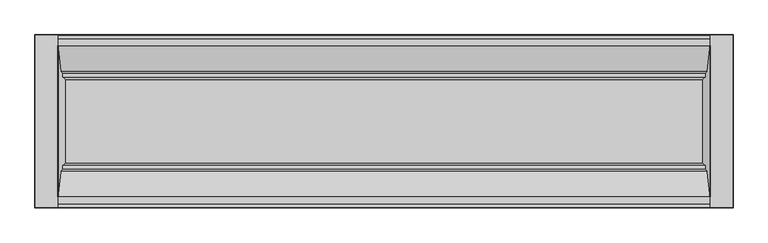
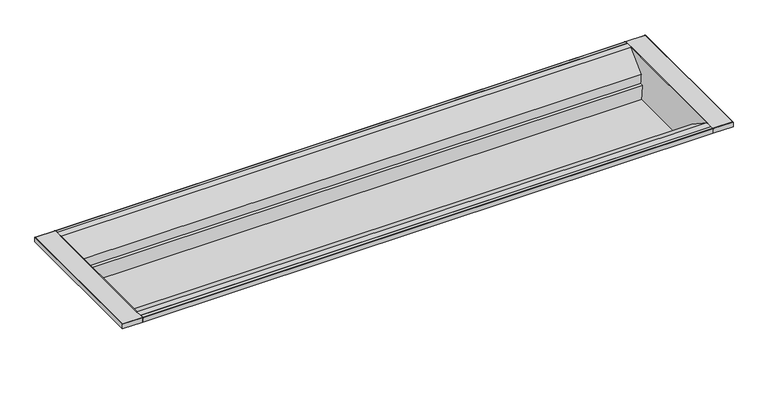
"""IFC4 building model written with IfcOpenShell, lengths in millimetres: light fixture geometry."""

from ifc_helpers import new_model, si_unit, frame, origin, place, context, project, spatial, circle_curve, ellipse_curve, faceted_brep, source, transform, mapped, element, save
from ifc_brep_helpers import plane_surface, cylinder_surface, advanced_brep


def light_fixture_11667dc2(model_context):
    return source(origin(), model_context, "Body", "SolidModel", [
        advanced_brep(
        [(566.0976563, 147.7086724, -0.79375), (566.0976563, 153.2649224, -0.79375), (566.0976563, 153.2649224, -10.0), (566.0976563, 154.0586724, -10.0), (566.0976563, 154.0586724, -0.8929688), (566.0976563, 153.1657036, 0.0), (566.0976563, 147.7086724, 0.0), (-566.0976562, 147.7086724, -0.79375), (-566.0976562, 147.7086724, 0.0), (-566.0976562, 153.1657036, 0.0), (-566.0976562, 154.0586724, -0.8929688), (-566.0976562, 154.0586724, -10.0), (-566.0976562, 153.2649224, -10.0), (-566.0976562, 153.2649224, -0.79375), (-546.0976562, 153.2649224, -10.0), (-546.0976562, 153.2649224, -9.20625), (546.0976563, 153.2649224, -9.20625), (546.0976563, 153.2649224, -10.0), (546.0976563, 147.2336724, -10.0), (542.9226563, 144.0586724, -10.0), (-542.9226562, 144.0586724, -10.0), (-546.0976562, 147.2336724, -10.0), (-546.0976562, 147.2336724, -9.20625), (-542.9226562, 144.0586724, -9.20625), (542.9226563, 144.0586724, -9.20625), (546.0976563, 147.2336724, -9.20625)],
        [
            (0, 1),
            (1, 2),
            (2, 3),
            (3, 4),
            (4, 5, circle_curve(frame((566.0976563, 153.1657036, -0.8929688), z_axis=(1.0, 0.0, 0.0), x_axis=(0.0, 1.0, 0.0)), 0.8929688)),
            (5, 6),
            (6, 0),
            (7, 8),
            (8, 9),
            (9, 10, circle_curve(frame((-566.0976562, 153.1657036, -0.8929688), z_axis=(-1.0, 0.0, 0.0), x_axis=(0.0, 1.0, 0.0)), 0.8929688)),
            (10, 11),
            (11, 12),
            (12, 13),
            (13, 7),
            (0, 7),
            (13, 1),
            (12, 14),
            (14, 15),
            (15, 16),
            (16, 17),
            (17, 2),
            (17, 18),
            (18, 19, circle_curve(frame((542.9226563, 147.2336724, -10.0), z_axis=(0.0, 0.0, -1.0), x_axis=(1.0, 0.0, 0.0)), 3.175)),
            (19, 20),
            (20, 21, circle_curve(frame((-542.9226562, 147.2336724, -10.0), z_axis=(0.0, 0.0, -1.0), x_axis=(1.0, 0.0, 0.0)), 3.175)),
            (21, 14),
            (11, 3),
            (10, 4),
            (9, 5),
            (8, 6),
            (22, 23, circle_curve(frame((-542.9226562, 147.2336724, -9.20625), z_axis=(0.0, 0.0, 1.0), x_axis=(1.0, 0.0, 0.0)), 3.175)),
            (23, 24),
            (24, 25, circle_curve(frame((542.9226563, 147.2336724, -9.20625), z_axis=(0.0, 0.0, 1.0), x_axis=(1.0, 0.0, 0.0)), 3.175)),
            (25, 16),
            (15, 22),
            (19, 24),
            (23, 20),
            (25, 18),
            (21, 22),
        ],
        [
            plane_surface(frame((566.0976563, 153.2649224, -0.79375), z_axis=(1.0, 0.0, 0.0), x_axis=(0.0, 1.0, 0.0))),
            plane_surface(frame((-566.0976562, 153.2649224, -0.79375), z_axis=(-1.0, 0.0, 0.0), x_axis=(0.0, -1.0, 0.0))),
            plane_surface(frame((566.0976563, 147.7086724, -0.79375), z_axis=(0.0, 0.0, -1.0), x_axis=(-1.0, 0.0, 0.0))),
            plane_surface(frame((566.0976563, 153.2649224, -0.79375), z_axis=(0.0, -1.0, 0.0), x_axis=(-1.0, 0.0, 0.0))),
            plane_surface(frame((566.0976563, 153.2649224, -10.0), z_axis=(0.0, 0.0, -1.0), x_axis=(-1.0, 0.0, 0.0))),
            plane_surface(frame((566.0976563, 154.0586724, -10.0), z_axis=(0.0, 1.0, 0.0), x_axis=(-1.0, 0.0, 0.0))),
            cylinder_surface(frame((-566.0976562, 153.1657036, -0.8929688), z_axis=(1.0, 0.0, 0.0), x_axis=(0.0, 1.0, 0.0)), 0.8929688),
            plane_surface(frame((566.0976563, 153.1657036, 0.0), z_axis=(0.0, 0.0, 1.0), x_axis=(-1.0, 0.0, 0.0))),
            plane_surface(frame((566.0976563, 147.7086724, 0.0), z_axis=(0.0, -1.0, 0.0), x_axis=(-1.0, 0.0, 0.0))),
            plane_surface(frame((-539.7476562, 147.2336724, -9.20625), z_axis=(0.0, 0.0, 1.0), x_axis=(0.0, 1.0, 0.0))),
            plane_surface(frame((-542.9226562, 144.0586724, -9.20625), z_axis=(0.0, -1.0, 0.0), x_axis=(0.0, 0.0, -1.0))),
            plane_surface(frame((546.0976563, 147.2336724, -9.20625), z_axis=(1.0, 0.0, 0.0), x_axis=(0.0, 0.0, -1.0))),
            plane_surface(frame((-546.0976562, 154.0586724, -9.20625), z_axis=(-1.0, 0.0, 0.0), x_axis=(0.0, 0.0, -1.0))),
            cylinder_surface(frame((-542.9226562, 147.2336724, -10.0), z_axis=(0.0, 0.0, 1.0), x_axis=(1.0, 0.0, 0.0)), 3.175),
            cylinder_surface(frame((542.9226563, 147.2336724, -10.0), z_axis=(0.0, 0.0, 1.0), x_axis=(1.0, 0.0, 0.0)), 3.175),
        ],
        [
            (0, [[1, 2, 3, 4, 5, 6, 7]]),
            (1, [[8, 9, 10, 11, 12, 13, 14]]),
            (2, [[-1, 15, -14, 16]]),
            (3, [[-2, -16, -13, 17, 18, 19, 20, 21]]),
            (4, [[-3, -21, 22, 23, 24, 25, 26, -17, -12, 27]]),
            (5, [[-4, -27, -11, 28]]),
            (6, [[-5, -28, -10, 29]]),
            (7, [[-6, -29, -9, 30]]),
            (8, [[-7, -30, -8, -15]]),
            (9, [[31, 32, 33, 34, -19, 35]]),
            (10, [[-24, 36, -32, 37]]),
            (11, [[38, -22, -20, -34]]),
            (12, [[39, -35, -18, -26]]),
            (13, [[-25, -37, -31, -39]]),
            (14, [[-23, -38, -33, -36]]),
        ],
    ),
        advanced_brep(
        [(566.0976563, -140.6210151, -0.79375), (566.0976563, -140.6210151, 0.0), (566.0976563, -146.0780464, 0.0), (566.0976563, -146.9710151, -0.8929688), (566.0976563, -146.9710151, -10.0), (566.0976563, -146.1772651, -10.0), (566.0976563, -146.1772651, -0.79375), (-566.0976562, -140.6210151, -0.79375), (-566.0976562, -146.1772651, -0.79375), (-566.0976562, -146.1772651, -10.0), (-566.0976562, -146.9710151, -10.0), (-566.0976562, -146.9710151, -0.8929688), (-566.0976562, -146.0780464, 0.0), (-566.0976562, -140.6210151, 0.0), (-546.0976562, -140.1460151, -10.0), (-542.9226562, -136.9710151, -10.0), (542.9226563, -136.9710151, -10.0), (546.0976563, -140.1460151, -10.0), (546.0976563, -146.1772651, -10.0), (-546.0976562, -146.1772651, -10.0), (546.0976563, -146.1772651, -9.20625), (-546.0976562, -146.1772651, -9.20625), (546.0976563, -140.1460151, -9.20625), (542.9226563, -136.9710151, -9.20625), (-542.9226562, -136.9710151, -9.20625), (-546.0976562, -140.1460151, -9.20625)],
        [
            (0, 1),
            (1, 2),
            (2, 3, circle_curve(frame((566.0976563, -146.0780464, -0.8929688), z_axis=(1.0, 0.0, 0.0), x_axis=(0.0, 1.0, 0.0)), 0.8929688)),
            (3, 4),
            (4, 5),
            (5, 6),
            (6, 0),
            (7, 8),
            (8, 9),
            (9, 10),
            (10, 11),
            (11, 12, circle_curve(frame((-566.0976562, -146.0780464, -0.8929688), z_axis=(-1.0, 0.0, 0.0), x_axis=(0.0, 1.0, 0.0)), 0.8929688)),
            (12, 13),
            (13, 7),
            (14, 15, circle_curve(frame((-542.9226562, -140.1460151, -10.0), z_axis=(0.0, 0.0, -1.0), x_axis=(1.0, 0.0, 0.0)), 3.175)),
            (15, 16),
            (16, 17, circle_curve(frame((542.9226563, -140.1460151, -10.0), z_axis=(0.0, 0.0, -1.0), x_axis=(1.0, 0.0, 0.0)), 3.175)),
            (17, 18),
            (18, 5),
            (4, 10),
            (9, 19),
            (19, 14),
            (0, 7),
            (13, 1),
            (12, 2),
            (11, 3),
            (18, 20),
            (20, 21),
            (21, 19),
            (8, 6),
            (22, 23, circle_curve(frame((542.9226563, -140.1460151, -9.20625), z_axis=(0.0, 0.0, 1.0), x_axis=(1.0, 0.0, 0.0)), 3.175)),
            (23, 24),
            (24, 25, circle_curve(frame((-542.9226562, -140.1460151, -9.20625), z_axis=(0.0, 0.0, 1.0), x_axis=(1.0, 0.0, 0.0)), 3.175)),
            (25, 21),
            (20, 22),
            (25, 14),
            (17, 22),
            (16, 23),
            (15, 24),
        ],
        [
            plane_surface(frame((566.0976563, 153.2649224, -0.79375), z_axis=(1.0, 0.0, 0.0), x_axis=(0.0, 1.0, 0.0))),
            plane_surface(frame((-566.0976562, 153.2649224, -0.79375), z_axis=(-1.0, 0.0, 0.0), x_axis=(0.0, -1.0, 0.0))),
            plane_surface(frame((566.0976563, 153.2649224, -10.0), z_axis=(0.0, 0.0, -1.0), x_axis=(-1.0, 0.0, 0.0))),
            plane_surface(frame((566.0976563, -140.6210151, -0.79375), z_axis=(0.0, 1.0, 0.0), x_axis=(-1.0, 0.0, 0.0))),
            plane_surface(frame((566.0976563, -140.6210151, 0.0), z_axis=(0.0, -2.909454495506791e-12, 1.0), x_axis=(-1.0, 0.0, 0.0))),
            cylinder_surface(frame((0.0, -146.0780464, -0.8929688), z_axis=(1.0, 0.0, 0.0), x_axis=(0.0, 1.0, 0.0)), 0.8929688),
            plane_surface(frame((566.0976563, -146.9710151, -0.8929688), z_axis=(0.0, -1.0, 0.0), x_axis=(-1.0, 0.0, 0.0))),
            plane_surface(frame((566.0976563, -146.1772651, -10.0), z_axis=(0.0, 1.0, 0.0), x_axis=(-1.0, 0.0, 0.0))),
            plane_surface(frame((566.0976563, -146.1772651, -0.79375), z_axis=(0.0, 0.0, -1.0), x_axis=(-1.0, 0.0, 0.0))),
            plane_surface(frame((-539.7476562, 147.2336724, -9.20625), z_axis=(0.0, 0.0, 1.0), x_axis=(0.0, 1.0, 0.0))),
            plane_surface(frame((-546.0976562, -140.1460151, -9.20625), z_axis=(-1.0, 0.0, 0.0), x_axis=(0.0, 0.0, -1.0))),
            plane_surface(frame((546.0976563, -146.9710151, -9.20625), z_axis=(1.0, 0.0, 0.0), x_axis=(0.0, 0.0, -1.0))),
            cylinder_surface(frame((542.9226563, -140.1460151, 0.0), z_axis=(0.0, 0.0, 1.0), x_axis=(1.0, 0.0, 0.0)), 3.175),
            plane_surface(frame((542.9226563, -136.9710151, -9.20625), z_axis=(0.0, 1.0, 0.0), x_axis=(0.0, 0.0, -1.0))),
            cylinder_surface(frame((-542.9226562, -140.1460151, 0.0), z_axis=(0.0, 0.0, 1.0), x_axis=(1.0, 0.0, 0.0)), 3.175),
        ],
        [
            (0, [[1, 2, 3, 4, 5, 6, 7]]),
            (1, [[8, 9, 10, 11, 12, 13, 14]]),
            (2, [[15, 16, 17, 18, 19, -5, 20, -10, 21, 22]]),
            (3, [[-1, 23, -14, 24]]),
            (4, [[-2, -24, -13, 25]]),
            (5, [[-3, -25, -12, 26]]),
            (6, [[-20, -4, -26, -11]]),
            (7, [[-6, -19, 27, 28, 29, -21, -9, 30]]),
            (8, [[-7, -30, -8, -23]]),
            (9, [[31, 32, 33, 34, -28, 35]]),
            (10, [[36, -22, -29, -34]]),
            (11, [[37, -35, -27, -18]]),
            (12, [[-17, 38, -31, -37]]),
            (13, [[-16, 39, -32, -38]]),
            (14, [[-15, -36, -33, -39]]),
        ],
    ),
        advanced_brep(
        [(-566.0985566, -128.293225, 0.0), (-566.0985566, 135.3808822, 0.0), (-566.9045515, 135.3808822, 0.0), (-566.9045515, -128.293225, 0.0), (-561.843246, 90.4756735, -28.7040897), (-559.0062048, 87.6386322, -44.79375), (-559.0062048, 81.2943654, -44.79375), (-554.4570278, 76.7451884, -70.5934151), (-554.4570278, -69.6575312, -70.5934151), (-559.0062048, -74.2067082, -44.79375), (-559.0062048, -80.550975, -44.79375), (-561.843246, -83.3880163, -28.7040897), (-553.5693308, 76.6138484, -71.3382812), (-553.5693308, -69.5261912, -71.3382812), (-544.0014676, 76.6138484, -71.3382813), (-544.0014676, -69.5261912, -71.3382813), (-544.0014676, 76.7538079, -70.5445312), (-544.0014676, -69.6661507, -70.5445312), (-553.6596524, 76.7538079, -70.5445312), (-553.6596524, -69.6661507, -70.5445312), (-561.0372511, -83.3880163, -28.7040897), (-558.2002099, -80.550975, -44.79375), (-558.2002099, -74.2067082, -44.79375), (-558.2002099, 81.2943654, -44.79375), (-558.2002099, 87.6386322, -44.79375), (-561.0372511, 90.4756735, -28.7040897)],
        [
            (0, 1),
            (1, 2),
            (2, 3),
            (3, 0),
            (2, 4),
            (4, 5),
            (5, 6),
            (6, 7),
            (7, 8),
            (8, 9),
            (9, 10),
            (10, 11),
            (11, 3),
            (7, 12, ellipse_curve(frame((-553.5693308, 76.772788, -70.4368902), z_axis=(0.0, -0.9848077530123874, 0.17364817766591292), x_axis=(0.0, -0.17364817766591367, -0.9848077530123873)), 0.9152965, 0.9013911)),
            (12, 13),
            (13, 8, ellipse_curve(frame((-553.5693308, -69.6851307, -70.4368902), z_axis=(0.0, 0.9848077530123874, 0.17364817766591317), x_axis=(0.0, -0.17364817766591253, 0.9848077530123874)), 0.9152965, 0.9013911)),
            (12, 14),
            (14, 15),
            (15, 13),
            (14, 16),
            (16, 17),
            (17, 15),
            (16, 18),
            (18, 19),
            (19, 17),
            (0, 20),
            (20, 21),
            (21, 22),
            (22, 19),
            (18, 23),
            (23, 24),
            (24, 25),
            (25, 1),
            (6, 23),
            (25, 4),
            (24, 5),
            (22, 9),
            (21, 10),
            (20, 11),
        ],
        [
            plane_surface(frame((-566.0985566, -146.9710151, 0.0), z_axis=(0.0, 0.0, 1.0), x_axis=(0.0, 1.0, 0.0))),
            plane_surface(frame((-566.9045515, -146.9710151, 0.0), z_axis=(-0.9848077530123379, 0.0, -0.17364817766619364), x_axis=(0.0, 1.0, 0.0))),
            cylinder_surface(frame((-553.5693308, 154.0586724, -70.4368902), z_axis=(0.0, -1.0, 0.0), x_axis=(1.0, 0.0, 0.0)), 0.9013911),
            plane_surface(frame((-553.5693308, -146.9710151, -71.3382812), z_axis=(-6.60762254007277e-12, 0.0, -1.0), x_axis=(0.0, 1.0, 0.0))),
            plane_surface(frame((-544.0014676, -146.9710151, -71.3382813), z_axis=(1.0, 0.0, 0.0), x_axis=(0.0, 1.0, 0.0))),
            plane_surface(frame((-544.0014676, -146.9710151, -70.5445312), z_axis=(0.0, 0.0, 1.0), x_axis=(0.0, 1.0, 0.0))),
            plane_surface(frame((-553.6596524, -146.9710151, -70.5445312), z_axis=(0.9848077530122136, 0.0, 0.17364817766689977), x_axis=(0.0, 1.0, 0.0))),
            plane_surface(frame((606.5738281, 81.2943654, -44.79375), z_axis=(0.0, 0.9848077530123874, -0.17364817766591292), x_axis=(-1.0, 0.0, 0.0))),
            plane_surface(frame((606.5738281, 135.3808822, 0.0), z_axis=(0.0, 0.5385844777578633, -0.842571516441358), x_axis=(-1.0, 0.0, 0.0))),
            plane_surface(frame((606.5738281, 90.4756735, -28.7040897), z_axis=(0.0, 0.9848077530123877, -0.1736481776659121), x_axis=(-1.0, 0.0, 0.0))),
            plane_surface(frame((606.5738281, 87.6386322, -44.79375), z_axis=(0.0, 1.005437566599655e-12, -1.0), x_axis=(-1.0, 0.0, 0.0))),
            plane_surface(frame((606.5738281, -69.5261912, -71.3382813), z_axis=(0.0, -0.9848077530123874, -0.17364817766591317), x_axis=(-1.0, 0.0, 0.0))),
            plane_surface(frame((606.5738281, -74.2067082, -44.79375), z_axis=(0.0, -1.0054375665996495e-12, -1.0), x_axis=(-1.0, 0.0, 0.0))),
            plane_surface(frame((606.5738281, -80.550975, -44.79375), z_axis=(0.0, -0.9848077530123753, -0.17364817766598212), x_axis=(-1.0, 0.0, 0.0))),
            plane_surface(frame((606.5738281, -83.3880163, -28.7040897), z_axis=(0.0, -0.5385844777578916, -0.8425715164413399), x_axis=(-1.0, 0.0, 0.0))),
        ],
        [
            (0, [[1, 2, 3, 4]]),
            (1, [[-3, 5, 6, 7, 8, 9, 10, 11, 12, 13]]),
            (2, [[-9, 14, 15, 16]]),
            (3, [[-15, 17, 18, 19]]),
            (4, [[-18, 20, 21, 22]]),
            (5, [[-21, 23, 24, 25]]),
            (6, [[-1, 26, 27, 28, 29, -24, 30, 31, 32, 33]]),
            (7, [[34, -30, -23, -20, -17, -14, -8]]),
            (8, [[35, -5, -2, -33]]),
            (9, [[-35, -32, 36, -6]]),
            (10, [[-34, -7, -36, -31]]),
            (11, [[37, -10, -16, -19, -22, -25, -29]]),
            (12, [[-37, -28, 38, -11]]),
            (13, [[-38, -27, 39, -12]]),
            (14, [[-39, -26, -4, -13]]),
        ],
    ),
        advanced_brep(
        [(566.0985566, -128.293225, 0.0), (566.0985566, 135.3808822, 0.0), (561.0372511, 90.4756735, -28.7040897), (558.2002099, 87.6386322, -44.79375), (558.2002099, 81.2943654, -44.79375), (553.6596524, 76.7538079, -70.5445312), (553.6596524, -69.6661507, -70.5445312), (558.2002099, -74.2067082, -44.79375), (558.2002099, -80.550975, -44.79375), (561.0372511, -83.3880163, -28.7040897), (544.0014676, 76.7538079, -70.5445312), (544.0014676, -69.6661507, -70.5445312), (544.0014676, 76.6138484, -71.3382813), (544.0014676, -69.5261912, -71.3382813), (553.5693308, 76.6138484, -71.3382812), (553.5693308, -69.5261912, -71.3382812), (554.4570278, 76.7451884, -70.5934151), (554.4570278, -69.6575312, -70.5934151), (559.0062048, 81.2943654, -44.79375), (559.0062048, 87.6386322, -44.79375), (561.843246, 90.4756735, -28.7040897), (566.9045515, 135.3808822, 0.0), (566.9045515, -128.293225, 0.0), (561.843246, -83.3880163, -28.7040897), (559.0062048, -80.550975, -44.79375), (559.0062048, -74.2067082, -44.79375)],
        [
            (0, 1),
            (1, 2),
            (2, 3),
            (3, 4),
            (4, 5),
            (5, 6),
            (6, 7),
            (7, 8),
            (8, 9),
            (9, 0),
            (5, 10),
            (10, 11),
            (11, 6),
            (10, 12),
            (12, 13),
            (13, 11),
            (12, 14),
            (14, 15),
            (15, 13),
            (14, 16, ellipse_curve(frame((553.5693308, 76.772788, -70.4368902), z_axis=(0.0, -0.9848077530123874, 0.17364817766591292), x_axis=(0.0, -0.17364817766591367, -0.9848077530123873)), 0.9152965, 0.9013911)),
            (16, 17),
            (17, 15, ellipse_curve(frame((553.5693308, -69.6851307, -70.4368902), z_axis=(0.0, 0.9848077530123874, 0.17364817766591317), x_axis=(0.0, -0.17364817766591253, 0.9848077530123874)), 0.9152965, 0.9013911)),
            (16, 18),
            (18, 19),
            (19, 20),
            (20, 21),
            (21, 22),
            (22, 23),
            (23, 24),
            (24, 25),
            (25, 17),
            (0, 22),
            (21, 1),
            (4, 18),
            (20, 2),
            (19, 3),
            (25, 7),
            (24, 8),
            (23, 9),
        ],
        [
            plane_surface(frame((566.0985566, -146.9710151, 0.0), z_axis=(-0.9848077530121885, 0.0, 0.17364817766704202), x_axis=(0.0, 1.0, 0.0))),
            plane_surface(frame((553.6596524, -146.9710151, -70.5445312), z_axis=(0.0, 0.0, 1.0), x_axis=(0.0, 1.0, 0.0))),
            plane_surface(frame((544.0014676, -146.9710151, -70.5445312), z_axis=(-1.0, 0.0, 0.0), x_axis=(0.0, 1.0, 0.0))),
            plane_surface(frame((544.0014676, -146.9710151, -71.3382813), z_axis=(6.607622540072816e-12, 0.0, -1.0), x_axis=(0.0, 1.0, 0.0))),
            cylinder_surface(frame((553.5693308, 3.5438286, -70.4368902), z_axis=(0.0, -1.0, 0.0), x_axis=(1.0, 0.0, 0.0)), 0.9013911),
            plane_surface(frame((554.4570278, -146.9710151, -70.5934151), z_axis=(0.9848077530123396, 0.0, -0.17364817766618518), x_axis=(0.0, 1.0, 0.0))),
            plane_surface(frame((566.9045515, -146.9710151, 0.0), z_axis=(0.0, 0.0, 1.0), x_axis=(0.0, 1.0, 0.0))),
            plane_surface(frame((606.5738281, 81.2943654, -44.79375), z_axis=(0.0, 0.9848077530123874, -0.17364817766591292), x_axis=(-1.0, 0.0, 0.0))),
            plane_surface(frame((606.5738281, 135.3808822, 0.0), z_axis=(0.0, 0.5385844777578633, -0.842571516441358), x_axis=(-1.0, 0.0, 0.0))),
            plane_surface(frame((606.5738281, 90.4756735, -28.7040897), z_axis=(0.0, 0.9848077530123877, -0.1736481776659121), x_axis=(-1.0, 0.0, 0.0))),
            plane_surface(frame((606.5738281, 87.6386322, -44.79375), z_axis=(0.0, 1.005437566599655e-12, -1.0), x_axis=(-1.0, 0.0, 0.0))),
            plane_surface(frame((606.5738281, -69.5261912, -71.3382813), z_axis=(0.0, -0.9848077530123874, -0.17364817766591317), x_axis=(-1.0, 0.0, 0.0))),
            plane_surface(frame((606.5738281, -74.2067082, -44.79375), z_axis=(0.0, -1.0054375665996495e-12, -1.0), x_axis=(-1.0, 0.0, 0.0))),
            plane_surface(frame((606.5738281, -80.550975, -44.79375), z_axis=(0.0, -0.9848077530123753, -0.17364817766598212), x_axis=(-1.0, 0.0, 0.0))),
            plane_surface(frame((606.5738281, -83.3880163, -28.7040897), z_axis=(0.0, -0.5385844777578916, -0.8425715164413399), x_axis=(-1.0, 0.0, 0.0))),
        ],
        [
            (0, [[1, 2, 3, 4, 5, 6, 7, 8, 9, 10]]),
            (1, [[-6, 11, 12, 13]]),
            (2, [[-12, 14, 15, 16]]),
            (3, [[-15, 17, 18, 19]]),
            (4, [[-18, 20, 21, 22]]),
            (5, [[-21, 23, 24, 25, 26, 27, 28, 29, 30, 31]]),
            (6, [[-1, 32, -27, 33]]),
            (7, [[34, -23, -20, -17, -14, -11, -5]]),
            (8, [[35, -2, -33, -26]]),
            (9, [[-35, -25, 36, -3]]),
            (10, [[-34, -4, -36, -24]]),
            (11, [[37, -7, -13, -16, -19, -22, -31]]),
            (12, [[-37, -30, 38, -8]]),
            (13, [[-38, -29, 39, -9]]),
            (14, [[-39, -28, -32, -10]]),
        ],
    ),
        faceted_brep([(566.0985566, 134.0825005, 0.0), (-566.0985566, 134.0825005, 0.0), (-561.1614012, 89.7938286, -28.0), (561.1614012, 89.7938286, -28.0), (-558.3401695, 86.9725969, -44.0), (558.3401695, 86.9725969, -44.0), (-558.3401695, 80.6283301, -44.0), (558.3401695, 80.6283301, -44.0), (-553.799612, 76.0877726, -69.7507812), (553.799612, 76.0877726, -69.7507813), (-553.799612, -69.0001154, -69.7507812), (553.799612, -69.0001154, -69.7507813), (-558.3401695, -73.5406729, -44.0), (558.3401695, -73.5406729, -44.0), (-558.3401695, -79.8849397, -44.0), (558.3401695, -79.8849397, -44.0), (-561.1614012, -82.7061714, -28.0), (561.1614012, -82.7061714, -28.0), (-566.0985566, -126.9948433, 0.0), (566.0985566, -126.9948433, 0.0), (-566.0985566, -140.6210151, 0.0), (566.0985566, -140.6210151, 0.0), (-565.9585971, -140.6210151, -0.79375), (565.9585971, -140.6210151, -0.79375), (-565.9585971, -127.0514678, -0.79375), (565.9585971, -127.0514678, -0.79375), (-561.0372511, -83.3880163, -28.7040897), (561.0372511, -83.3880163, -28.7040897), (-558.2002099, -80.550975, -44.79375), (558.2002099, -80.550975, -44.79375), (-558.2002099, -74.2067082, -44.79375), (558.2002099, -74.2067082, -44.79375), (-553.6596524, -69.6661507, -70.5445312), (553.6596524, -69.6661507, -70.5445313), (-553.6596524, 76.7538079, -70.5445312), (553.6596524, 76.7538079, -70.5445313), (-558.2002099, 81.2943654, -44.79375), (558.2002099, 81.2943654, -44.79375), (-558.2002099, 87.6386322, -44.79375), (558.2002099, 87.6386322, -44.79375), (-561.0372511, 90.4756735, -28.7040897), (561.0372511, 90.4756735, -28.7040897), (-565.9585971, 134.139125, -0.79375), (565.9585971, 134.139125, -0.79375), (-565.9585971, 147.7086724, -0.79375), (565.9585971, 147.7086724, -0.79375), (-566.0985566, 147.7086724, 0.0), (566.0985566, 147.7086724, 0.0)], [[[0, 1, 2, 3]], [[3, 2, 4, 5]], [[5, 4, 6, 7]], [[7, 6, 8, 9]], [[9, 8, 10, 11]], [[11, 10, 12, 13]], [[13, 12, 14, 15]], [[15, 14, 16, 17]], [[17, 16, 18, 19]], [[19, 18, 20, 21]], [[21, 20, 22, 23]], [[23, 22, 24, 25]], [[25, 24, 26, 27]], [[27, 26, 28, 29]], [[29, 28, 30, 31]], [[31, 30, 32, 33]], [[33, 32, 34, 35]], [[35, 34, 36, 37]], [[37, 36, 38, 39]], [[39, 38, 40, 41]], [[41, 40, 42, 43]], [[43, 42, 44, 45]], [[45, 44, 46, 47]], [[1, 0, 47, 46]], [[2, 1, 46, 44, 42, 40, 38, 36, 34, 32, 30, 28, 26, 24, 22, 20, 18, 16, 14, 12, 10, 8, 6, 4]], [[0, 3, 5, 7, 9, 11, 13, 15, 17, 19, 21, 23, 25, 27, 29, 31, 33, 35, 37, 39, 41, 43, 45, 47]]]),
        advanced_brep(
        [(-566.0976562, 153.2649224, -0.79375), (-566.0976562, 153.2649224, -10.0), (-566.0976562, 154.0586724, -10.0), (-566.0976562, 154.0586724, -0.8929688), (-566.0976562, 153.1657036, 0.0), (-566.0976562, -146.0780464, 0.0), (-566.0976562, -146.9710151, -0.8929688), (-566.0976562, -146.9710151, -10.0), (-566.0976562, -146.1772651, -10.0), (-566.0976562, -146.1772651, -0.79375), (-605.7800781, 153.2649224, -10.0), (-605.7800781, -146.1772651, -10.0), (-606.5738281, -146.9710151, -10.0), (-606.5738281, 154.0586724, -10.0), (-606.5738281, 154.0586724, -0.8929688), (-605.6808594, 153.1657036, 0.0), (-605.6808594, -146.0780464, 0.0), (-606.5738281, -146.9710151, -0.8929688), (-605.7800781, -146.1772651, -0.79375), (-605.7800781, 153.2649224, -0.79375)],
        [
            (0, 1),
            (1, 2),
            (2, 3),
            (3, 4, circle_curve(frame((-566.0976562, 153.1657036, -0.8929688), z_axis=(1.0, 0.0, 0.0), x_axis=(0.0, -1.0, 0.0)), 0.8929688)),
            (4, 5),
            (5, 6, circle_curve(frame((-566.0976562, -146.0780464, -0.8929688), z_axis=(1.0, 0.0, 0.0), x_axis=(0.0, 1.0, 0.0)), 0.8929688)),
            (6, 7),
            (7, 8),
            (8, 9),
            (9, 0),
            (1, 10),
            (10, 11),
            (11, 8),
            (7, 12),
            (12, 13),
            (13, 2),
            (13, 14),
            (14, 3),
            (4, 15),
            (15, 16),
            (16, 5),
            (12, 17),
            (17, 14),
            (6, 17),
            (9, 18),
            (18, 19),
            (19, 0),
            (19, 10),
            (14, 15, ellipse_curve(frame((-605.6808594, 153.1657036, -0.8929688), z_axis=(0.7071067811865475, 0.7071067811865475, 0.0), x_axis=(0.7071067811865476, -0.7071067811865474, 0.0)), 1.2628485, 0.8929688)),
            (18, 11),
            (17, 16, ellipse_curve(frame((-605.6808594, -146.0780464, -0.8929688), z_axis=(-0.7071067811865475, 0.7071067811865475, 0.0), x_axis=(0.7071067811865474, 0.7071067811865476, 0.0)), 1.2628485, 0.8929688)),
        ],
        [
            plane_surface(frame((-566.0976562, 154.0586724, 0.0), z_axis=(1.0, 0.0, 0.0), x_axis=(0.0, 0.0, 1.0))),
            plane_surface(frame((-566.0976562, 153.2649224, -10.0), z_axis=(0.0, 0.0, -1.0), x_axis=(-1.0, 0.0, 0.0))),
            plane_surface(frame((-566.0976562, 154.0586724, -10.0), z_axis=(0.0, 1.0, 0.0), x_axis=(-1.0, 0.0, 0.0))),
            plane_surface(frame((-566.0976562, 153.1657036, 0.0), z_axis=(0.0, 0.0, 1.0), x_axis=(-1.0, 0.0, 0.0))),
            plane_surface(frame((-606.5738281, 154.0586724, -10.0), z_axis=(-1.0, 0.0, 0.0), x_axis=(0.0, -1.0, 0.0))),
            plane_surface(frame((-606.5738281, -146.9710151, -10.0), z_axis=(0.0, -1.0, 0.0), x_axis=(1.0, 0.0, 0.0))),
            plane_surface(frame((-566.0976562, 150.8836724, -0.79375), z_axis=(0.0, 0.0, -1.0), x_axis=(-1.0, 0.0, 0.0))),
            plane_surface(frame((-566.0976562, 153.2649224, -0.79375), z_axis=(0.0, -1.0, 0.0), x_axis=(-1.0, 0.0, 0.0))),
            cylinder_surface(frame((-566.0976562, 153.1657036, -0.8929688), z_axis=(1.0, 0.0, 0.0), x_axis=(0.0, -1.0, 0.0)), 0.8929688),
            plane_surface(frame((-605.7800781, 153.2649224, -0.79375), z_axis=(1.0, 0.0, 0.0), x_axis=(0.0, -1.0, 0.0))),
            cylinder_surface(frame((-605.6808594, 154.0586724, -0.8929688), z_axis=(0.0, 1.0, 0.0), x_axis=(1.0, 0.0, 0.0)), 0.8929688),
            plane_surface(frame((-605.7800781, -146.1772651, -0.79375), z_axis=(0.0, 1.0, 0.0), x_axis=(1.0, 0.0, 0.0))),
            cylinder_surface(frame((-606.5738281, -146.0780464, -0.8929688), z_axis=(-1.0, 0.0, 0.0), x_axis=(0.0, 1.0, 0.0)), 0.8929688),
        ],
        [
            (0, [[1, 2, 3, 4, 5, 6, 7, 8, 9, 10]]),
            (1, [[-2, 11, 12, 13, -8, 14, 15, 16]]),
            (2, [[-3, -16, 17, 18]]),
            (3, [[19, 20, 21, -5]]),
            (4, [[-15, 22, 23, -17]]),
            (5, [[-14, -7, 24, -22]]),
            (6, [[25, 26, 27, -10]]),
            (7, [[-1, -27, 28, -11]]),
            (8, [[-4, -18, 29, -19]]),
            (9, [[-12, -28, -26, 30]]),
            (10, [[-20, -29, -23, 31]]),
            (11, [[-13, -30, -25, -9]]),
            (12, [[-21, -31, -24, -6]]),
        ],
    ),
        advanced_brep(
        [(566.0976563, -146.0780464, 0.0), (605.6808594, -146.0780464, 0.0), (605.6808594, 153.1657036, 0.0), (566.0976563, 153.1657036, 0.0), (566.0976563, 153.2649224, -0.79375), (605.7800781, 153.2649224, -0.79375), (605.7800781, -146.1772651, -0.79375), (566.0976563, -146.1772651, -0.79375), (566.0976563, 154.0586724, -0.8929688), (566.0976563, 154.0586724, -10.0), (566.0976563, 153.2649224, -10.0), (566.0976563, -146.1772651, -10.0), (566.0976563, -146.9710151, -10.0), (566.0976563, -146.9710151, -0.8929688), (606.5738281, 154.0586724, -10.0), (606.5738281, -146.9710151, -10.0), (605.7800781, -146.1772651, -10.0), (605.7800781, 153.2649224, -10.0), (606.5738281, 154.0586724, -0.8929688), (606.5738281, -146.9710151, -0.8929688)],
        [
            (0, 1),
            (1, 2),
            (2, 3),
            (3, 0),
            (4, 5),
            (5, 6),
            (6, 7),
            (7, 4),
            (3, 8, circle_curve(frame((566.0976563, 153.1657036, -0.8929688), z_axis=(-1.0, 0.0, 0.0), x_axis=(0.0, 1.0, 0.0)), 0.8929688)),
            (8, 9),
            (9, 10),
            (10, 4),
            (7, 11),
            (11, 12),
            (12, 13),
            (13, 0, circle_curve(frame((566.0976563, -146.0780464, -0.8929688), z_axis=(-1.0, 0.0, 0.0), x_axis=(0.0, -1.0, 0.0)), 0.8929688)),
            (9, 14),
            (14, 15),
            (15, 12),
            (11, 16),
            (16, 17),
            (17, 10),
            (8, 18),
            (18, 14),
            (18, 19),
            (19, 15),
            (19, 13),
            (17, 5),
            (2, 18, ellipse_curve(frame((605.6808594, 153.1657036, -0.8929688), z_axis=(-0.7071067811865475, 0.7071067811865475, 0.0), x_axis=(-0.7071067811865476, -0.7071067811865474, 0.0)), 1.2628485, 0.8929688)),
            (16, 6),
            (1, 19, ellipse_curve(frame((605.6808594, -146.0780464, -0.8929688), z_axis=(0.7071067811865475, 0.7071067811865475, 0.0), x_axis=(-0.7071067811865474, 0.7071067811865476, 0.0)), 1.2628485, 0.8929688)),
        ],
        [
            plane_surface(frame((-566.0976562, 153.1657036, 0.0), z_axis=(0.0, 0.0, 1.0), x_axis=(-1.0, 0.0, 0.0))),
            plane_surface(frame((-566.0976562, 150.8836724, -0.79375), z_axis=(0.0, 0.0, -1.0), x_axis=(-1.0, 0.0, 0.0))),
            plane_surface(frame((566.0976563, 150.8836724, 0.0), z_axis=(-1.0, 0.0, 0.0), x_axis=(0.0, 0.0, -1.0))),
            plane_surface(frame((566.0976563, 154.0586724, -10.0), z_axis=(0.0, 0.0, -1.0), x_axis=(1.0, 0.0, 0.0))),
            plane_surface(frame((566.0976563, 154.0586724, -0.8929688), z_axis=(0.0, 1.0, 0.0), x_axis=(1.0, 0.0, 0.0))),
            plane_surface(frame((606.5738281, 154.0586724, -0.8929688), z_axis=(1.0, 0.0, 0.0), x_axis=(0.0, -1.0, 0.0))),
            plane_surface(frame((606.5738281, -146.9710151, -0.8929688), z_axis=(0.0, -1.0, 0.0), x_axis=(-1.0, 0.0, 0.0))),
            plane_surface(frame((566.0976563, 153.2649224, -10.0), z_axis=(0.0, -1.0, 0.0), x_axis=(1.0, 0.0, 0.0))),
            cylinder_surface(frame((566.0976563, 153.1657036, -0.8929688), z_axis=(-1.0, 0.0, 0.0), x_axis=(0.0, 1.0, 0.0)), 0.8929688),
            plane_surface(frame((605.7800781, 153.2649224, -10.0), z_axis=(-1.0, 0.0, 0.0), x_axis=(0.0, -1.0, 0.0))),
            cylinder_surface(frame((605.6808594, 154.0586724, -0.8929688), z_axis=(0.0, 1.0, 0.0), x_axis=(1.0, 0.0, 0.0)), 0.8929688),
            plane_surface(frame((605.7800781, -146.1772651, -10.0), z_axis=(0.0, 1.0, 0.0), x_axis=(-1.0, 0.0, 0.0))),
            cylinder_surface(frame((606.5738281, -146.0780464, -0.8929688), z_axis=(1.0, 0.0, 0.0), x_axis=(0.0, -1.0, 0.0)), 0.8929688),
        ],
        [
            (0, [[1, 2, 3, 4]]),
            (1, [[5, 6, 7, 8]]),
            (2, [[-4, 9, 10, 11, 12, -8, 13, 14, 15, 16]]),
            (3, [[-11, 17, 18, 19, -14, 20, 21, 22]]),
            (4, [[-10, 23, 24, -17]]),
            (5, [[-18, -24, 25, 26]]),
            (6, [[-19, -26, 27, -15]]),
            (7, [[-12, -22, 28, -5]]),
            (8, [[-9, -3, 29, -23]]),
            (9, [[-21, 30, -6, -28]]),
            (10, [[-2, 31, -25, -29]]),
            (11, [[-20, -13, -7, -30]]),
            (12, [[-1, -16, -27, -31]]),
        ],
    ),
    ])


if __name__ == "__main__":
    model = new_model("IFC4")
    model_context = context("Model", 3, world=origin())
    ifc_project = project(units=[si_unit("LENGTHUNIT", "METRE", prefix="MILLI")], contexts=[model_context])
    site = spatial("IfcSite", under=ifc_project)
    building = spatial("IfcBuilding", under=site)
    placement = place(None, origin())
    light_fixture_shape = light_fixture_11667dc2(model_context)
    element("IfcLightFixture", 1, at=placement, inside=building, context=model_context, shape_type="MappedRepresentation", body=[
        mapped(light_fixture_shape, transform((0.0, 0.0, 0.0), x_axis=(1.0, 0.0, 0.0), y_axis=(0.0, 1.0, 0.0), z_axis=(0.0, 0.0, 1.0))),
    ])
    save(model, "model.ifc")
